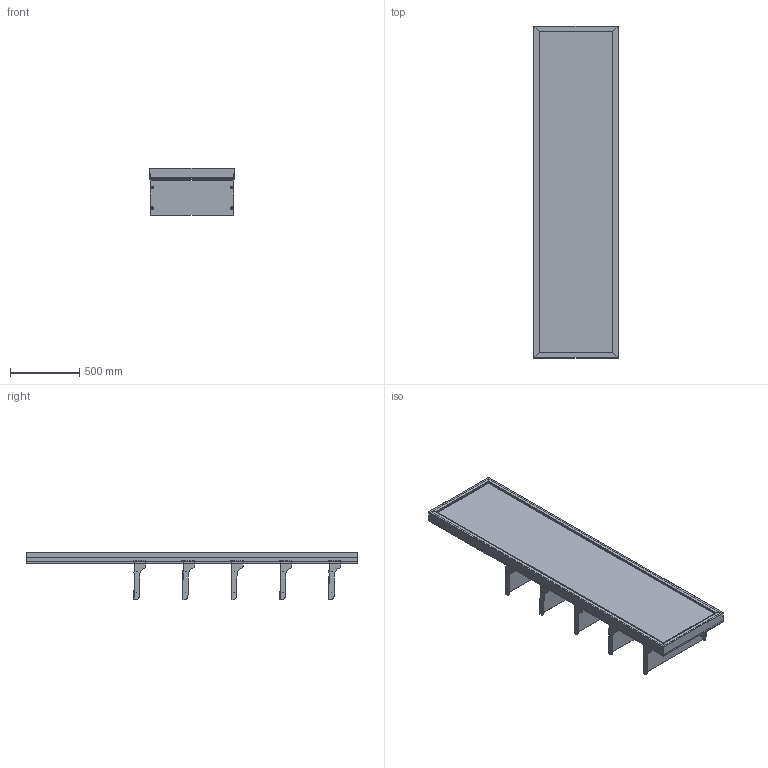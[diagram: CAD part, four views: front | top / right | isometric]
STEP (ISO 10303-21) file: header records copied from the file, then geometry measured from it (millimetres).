
FILE_DESCRIPTION (( 'STEP AP203' ), '1' );
FILE_NAME ('Padel Retail Display - Ball Solution.STEP', '2026-03-30T11:47:31', ( '' ), ( '' ), 'SwSTEP 2.0', 'SolidWorks 2025', '' );
FILE_SCHEMA (( 'CONFIG_CONTROL_DESIGN' ));
Length unit declared in the file: millimetre
Products named in the file (11): 0001-31-SA29.STEP; Padel Retail Display - Ball Solution; 0001-31-115.STEP; 0000-31-113.STEP; 0001-31-114.STEP; 0001-31-SA30.STEP; 0001-31-123.STEP; 0001-31-SA28 - 610W Glass Shelf_Assem5; 0001-31-SA28 - 610W Glass Shelf.STEP; 0001-31-124.STEP; 0001-31-GA01 - 610W Slotted Upright
Assembly tree (28 placements, depth 5):
  Padel Retail Display - Ball Solution
    0001-31-GA01 - 610W Slotted Upright
    0001-31-SA28 - 610W Glass Shelf_Assem5  x5
      0001-31-SA28 - 610W Glass Shelf.STEP
        0001-31-SA29.STEP
          0000-31-113.STEP
          0001-31-114.STEP  x2
        0001-31-SA30.STEP
          0000-31-113.STEP
          0001-31-114.STEP  x2
        0001-31-115.STEP
        0001-31-123.STEP  x8
        0001-31-124.STEP  x4
Bounding box: 609.75 x 2400 x 340.44 mm (x, y, z)
Volume: 12849372.1 mm3; surface area: 9794289.7 mm2
Topology: 101 solids, 101 shells, 1960 faces, 5016 edges, 3224 vertices
Faces by surface type: plane 1282, cylinder 598, cone 80
Entity records: 19804 total; most frequent: CARTESIAN_POINT 3555, ORIENTED_EDGE 3282, DIRECTION 2707, EDGE_CURVE 1641, VECTOR 1471, LINE 1471, VERTEX_POINT 1082, AXIS2_PLACEMENT_3D 618
